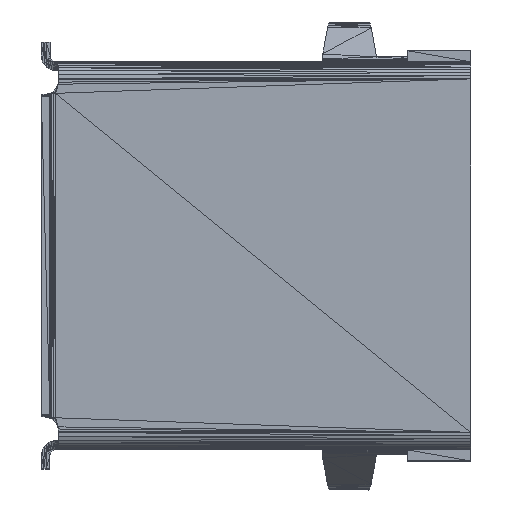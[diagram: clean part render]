
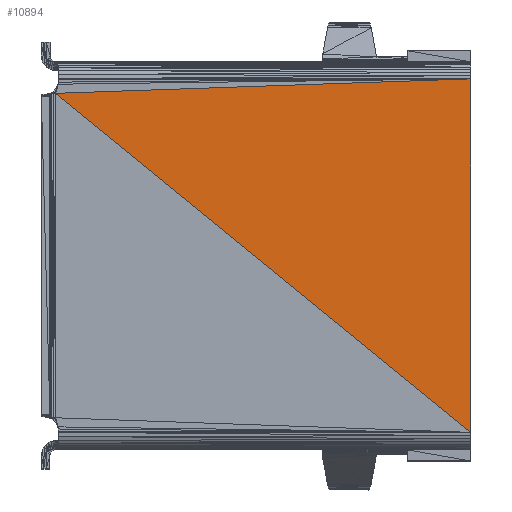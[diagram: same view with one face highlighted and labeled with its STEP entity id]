
A CAD part, top view. The second image highlights one B-rep face of the part: STEP entity #10894.
In plain terms, the highlighted planar face has unit normal (0, 0, 1).
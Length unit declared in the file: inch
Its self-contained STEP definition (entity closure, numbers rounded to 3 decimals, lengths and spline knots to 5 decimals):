
#8457=CARTESIAN_POINT('',(0.5745,-0.23662,0.27034));
#8458=VERTEX_POINT('',#8457);
#10043=CARTESIAN_POINT('',(0.5746,0.23628,0.27044));
#10044=VERTEX_POINT('',#10043);
#10051=CARTESIAN_POINT('',(0.5745,-0.23663,0.27034));
#10052=DIRECTION('',(0.,1.,0.));
#10053=VECTOR('',#10052,0.47291);
#10054=LINE('',#10051,#10053);
#10055=EDGE_CURVE('',#8458,#10044,#10054,.T.);
#10872=CARTESIAN_POINT('',(0.01932,0.21695,0.27043));
#10873=DIRECTION('',(0.,0.,1.));
#10874=DIRECTION('',(1.,0.,0.));
#10875=AXIS2_PLACEMENT_3D('',#10872,#10873,#10874);
#10876=PLANE('',#10875);
#10877=CARTESIAN_POINT('',(0.01932,0.21695,0.27043));
#10878=VERTEX_POINT('',#10877);
#10879=CARTESIAN_POINT('',(0.5745,-0.23663,0.27034));
#10880=DIRECTION('',(-0.774,0.633,0.));
#10881=VECTOR('',#10880,0.7169);
#10882=LINE('',#10879,#10881);
#10883=EDGE_CURVE('',#8458,#10878,#10882,.T.);
#10884=ORIENTED_EDGE('',*,*,#10883,.F.);
#10885=ORIENTED_EDGE('',*,*,#10055,.T.);
#10886=CARTESIAN_POINT('',(0.01932,0.21695,0.27043));
#10887=DIRECTION('',(0.999,0.035,0.));
#10888=VECTOR('',#10887,0.55561);
#10889=LINE('',#10886,#10888);
#10890=EDGE_CURVE('',#10878,#10044,#10889,.T.);
#10891=ORIENTED_EDGE('',*,*,#10890,.F.);
#10892=EDGE_LOOP('',(#10884,#10885,#10891));
#10893=FACE_BOUND('',#10892,.T.);
#10894=ADVANCED_FACE('',(#10893),#10876,.T.);
